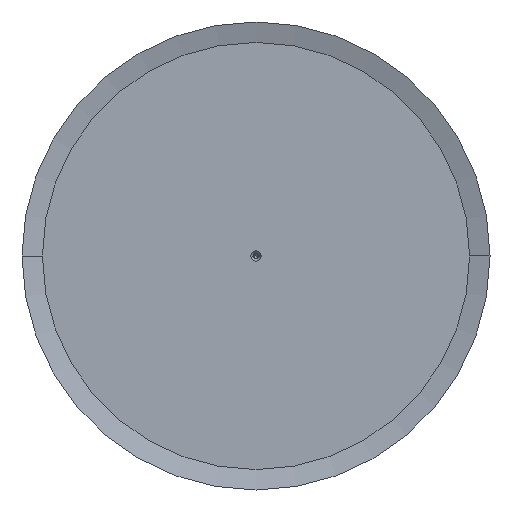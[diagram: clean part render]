
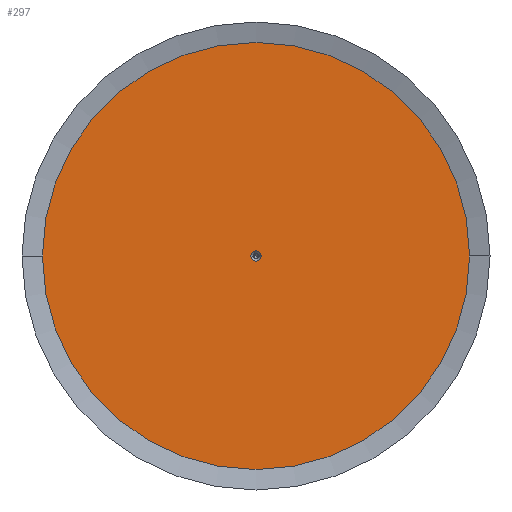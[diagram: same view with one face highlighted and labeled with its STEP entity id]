
A CAD part, left-side view. The second image highlights one B-rep face of the part: STEP entity #297.
In plain terms, the highlighted planar face has unit normal (-1, 0, 0).
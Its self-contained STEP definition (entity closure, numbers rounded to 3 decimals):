
#297=ADVANCED_FACE('',(#747,#748),#749,.T.);
#747=FACE_BOUND('',#1198,.T.);
#748=FACE_OUTER_BOUND('',#1199,.T.);
#749=PLANE('',#1200);
#1198=EDGE_LOOP('',(#3131,#3132));
#1199=EDGE_LOOP('',(#3133,#3134));
#1200=AXIS2_PLACEMENT_3D('',#3135,#3136,#3137);
#3131=ORIENTED_EDGE('',*,*,#3178,.T.);
#3132=ORIENTED_EDGE('',*,*,#3191,.T.);
#3133=ORIENTED_EDGE('',*,*,#3676,.F.);
#3134=ORIENTED_EDGE('',*,*,#3148,.F.);
#3135=CARTESIAN_POINT('',(0.0,0.0,0.0));
#3136=DIRECTION('',(-1.0,0.0,0.0));
#3137=DIRECTION('',(0.0,0.0,1.0));
#3148=EDGE_CURVE('',#3788,#3785,#3790,.T.);
#3178=EDGE_CURVE('',#3839,#3841,#3843,.T.);
#3191=EDGE_CURVE('',#3841,#3839,#3863,.T.);
#3676=EDGE_CURVE('',#3785,#3788,#4728,.T.);
#3785=VERTEX_POINT('',#4841);
#3788=VERTEX_POINT('',#4845);
#3790=CIRCLE('',#4848,83.5);
#3839=VERTEX_POINT('',#4911);
#3841=VERTEX_POINT('',#4914);
#3843=CIRCLE('',#4917,2.0);
#3863=CIRCLE('',#4943,2.0);
#4728=CIRCLE('',#5904,83.5);
#4841=CARTESIAN_POINT('',(0.0,83.5,0.0));
#4845=CARTESIAN_POINT('',(0.0,-83.5,0.));
#4848=AXIS2_PLACEMENT_3D('',#6112,#6113,#6114);
#4911=CARTESIAN_POINT('',(0.0,2.0,0.0));
#4914=CARTESIAN_POINT('',(0.0,-2.0,0.));
#4917=AXIS2_PLACEMENT_3D('',#6170,#6171,#6172);
#4943=AXIS2_PLACEMENT_3D('',#6197,#6198,#6199);
#5904=AXIS2_PLACEMENT_3D('',#7460,#7461,#7462);
#6112=CARTESIAN_POINT('',(0.0,0.0,0.0));
#6113=DIRECTION('',(1.0,0.0,0.0));
#6114=DIRECTION('',(0.0,1.0,0.0));
#6170=CARTESIAN_POINT('',(0.0,0.0,0.0));
#6171=DIRECTION('',(1.0,0.0,0.0));
#6172=DIRECTION('',(0.0,1.0,0.0));
#6197=CARTESIAN_POINT('',(0.0,0.0,0.0));
#6198=DIRECTION('',(1.0,0.0,0.0));
#6199=DIRECTION('',(0.0,1.0,0.0));
#7460=CARTESIAN_POINT('',(0.0,0.0,0.0));
#7461=DIRECTION('',(1.0,0.0,0.0));
#7462=DIRECTION('',(0.0,1.0,0.0));
